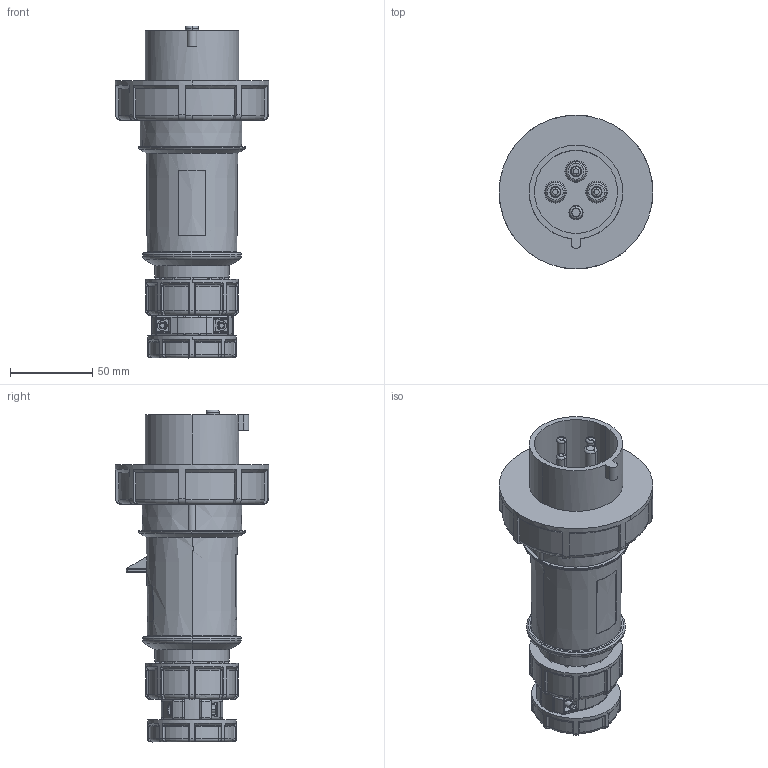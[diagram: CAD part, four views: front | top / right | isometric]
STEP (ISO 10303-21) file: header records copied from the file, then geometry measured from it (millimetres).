
FILE_DESCRIPTION((''),'2;1');
FILE_NAME('3841_DUMMY_SW0001','2018-02-09T',('gisse'),('MENNEKES'),'PRO/ENGINEER BY PARAMETRIC TECHNOLOGY CORPORATION, 2015440','PRO/ENGINEER BY PARAMETRIC TECHNOLOGY CORPORATION, 2015440','');
FILE_SCHEMA(('AUTOMOTIVE_DESIGN { 1 0 10303 214 1 1 1 1 }'));
Length unit declared in the file: millimetre
Products named in the file (1): 3841_DUMMY_SW0001
Bounding box: 93.5 x 93.5 x 201.85 mm (x, y, z)
Volume: 473444.9 mm3; surface area: 70875.1 mm2
Topology: 1 solids, 2 shells, 770 faces, 2006 edges, 1256 vertices
Faces by surface type: plane 245, cylinder 218, torus 120, bspline 88, cone 63, sphere 36
Entity records: 39713 total; most frequent: CARTESIAN_POINT 10060, ORIENTED_EDGE 4012, DIRECTION 3602, PRESENTATION_STYLE_ASSIGNMENT 2427, STYLED_ITEM 2007, CURVE_STYLE 2006, EDGE_CURVE 2006, AXIS2_PLACEMENT_3D 1443
